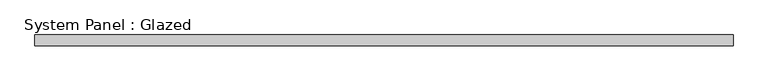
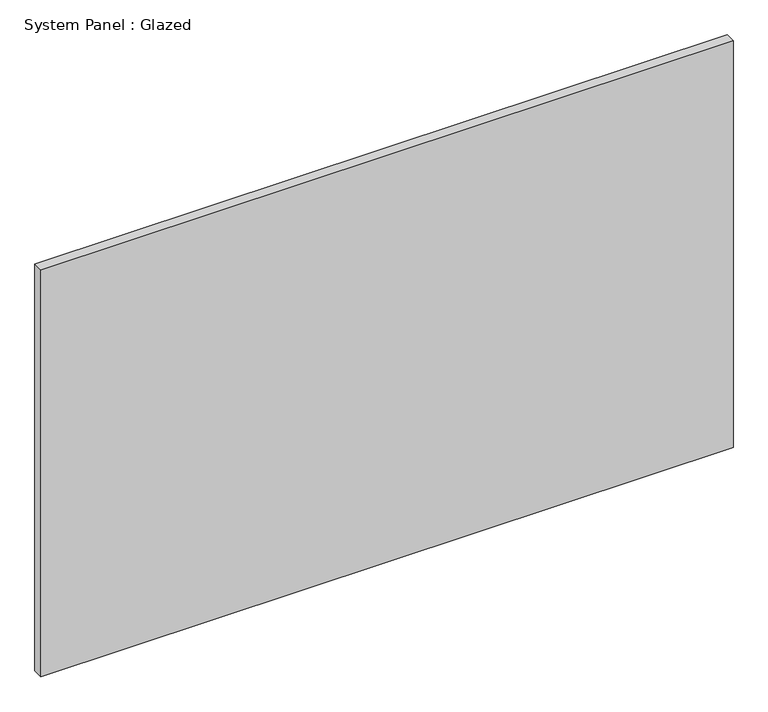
"""IFC4 building model written with IfcOpenShell, lengths in millimetres: plate geometry, System Panel : Glazed."""

from ifc_helpers import new_model, si_unit, origin, origin_with_axes, place, context, project, spatial, polyline, outline, extrude, source, transform, mapped, element, save


def system_panel_glazed_9c306b22(model_context):
    return source(origin(), model_context, "Body", "SweptSolid", [
        extrude(outline(polyline([(835.4173679, 19.05), (-835.4173679, 19.05), (-835.4173679, 44.45), (835.4173679, 44.45), (835.4173679, 19.05)])), origin_with_axes(), (0.0, 0.0, 1.0), 1038.7193103),
    ])


if __name__ == "__main__":
    model = new_model("IFC4")
    model_context = context("Model", 3, world=origin())
    ifc_project = project(units=[si_unit("LENGTHUNIT", "METRE", prefix="MILLI")], contexts=[model_context])
    site = spatial("IfcSite", under=ifc_project)
    building = spatial("IfcBuilding", under=site)
    placement = place(None, origin())
    system_panel_glazed_shape = system_panel_glazed_9c306b22(model_context)
    element("IfcPlate", 1, ObjectType="System Panel : Glazed", at=placement, inside=building, context=model_context, shape_type="MappedRepresentation", body=[
        mapped(system_panel_glazed_shape, transform((0.0, 0.0, 0.0), x_axis=(1.0, 0.0, 0.0), y_axis=(0.0, 1.0, 0.0), z_axis=(0.0, 0.0, 1.0))),
    ])
    save(model, "model.ifc")
